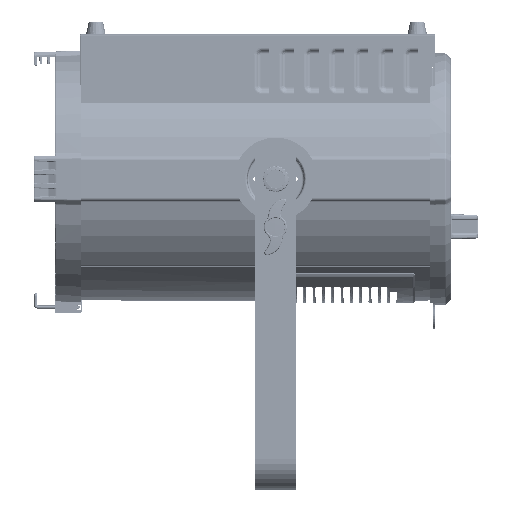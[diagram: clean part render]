
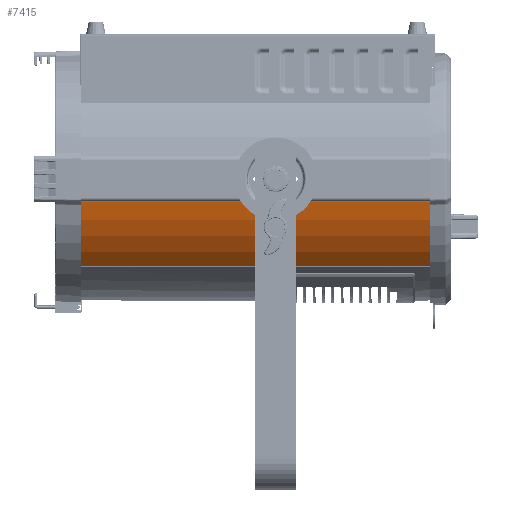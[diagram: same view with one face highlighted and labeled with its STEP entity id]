
A CAD part, left-side view. The second image highlights one B-rep face of the part: STEP entity #7415.
In plain terms, the highlighted cylindrical face has radius 117.5 mm (diameter 235 mm), a partial arc.
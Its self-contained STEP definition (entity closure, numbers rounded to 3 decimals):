
#3907=CARTESIAN_POINT('',(0.,172.,0.));
#3908=DIRECTION('',(0.,-1.,0.));
#3909=DIRECTION('',(0.982,0.,0.191));
#3910=AXIS2_PLACEMENT_3D('',#3907,#3908,#3909);
#4965=DIRECTION('',(0.,-1.,0.));
#4966=VECTOR('',#4965,344.);
#4967=CARTESIAN_POINT('',(82.853,172.,83.317));
#4968=LINE('',#4967,#4966);
#4972=DIRECTION('',(0.,-1.,0.));
#4973=VECTOR('',#4972,344.);
#4974=CARTESIAN_POINT('',(115.342,172.,22.414));
#4975=LINE('',#4974,#4973);
#4979=CARTESIAN_POINT('',(0.,-172.,0.));
#4980=DIRECTION('',(0.,-1.,0.));
#4981=DIRECTION('',(0.982,0.,0.191));
#4982=AXIS2_PLACEMENT_3D('',#4979,#4980,#4981);
#5851=CARTESIAN_POINT('',(115.342,172.,22.414));
#5852=CARTESIAN_POINT('',(115.342,-172.,22.414));
#5853=VERTEX_POINT('',#5851);
#5854=VERTEX_POINT('',#5852);
#5887=CARTESIAN_POINT('',(82.853,-172.,83.317));
#5889=VERTEX_POINT('',#5887);
#5893=CARTESIAN_POINT('',(82.853,172.,83.317));
#5894=VERTEX_POINT('',#5893);
#7402=CARTESIAN_POINT('',(0.,-172.,0.));
#7403=DIRECTION('',(0.,1.,0.));
#7404=DIRECTION('',(1.,0.,0.));
#7405=AXIS2_PLACEMENT_3D('',#7402,#7403,#7404);
#7406=CYLINDRICAL_SURFACE('',#7405,117.5);
#7408=ORIENTED_EDGE('',*,*,#7407,.F.);
#7409=ORIENTED_EDGE('',*,*,#6589,.F.);
#7411=ORIENTED_EDGE('',*,*,#7410,.T.);
#7412=ORIENTED_EDGE('',*,*,#6256,.T.);
#7413=EDGE_LOOP('',(#7408,#7409,#7411,#7412));
#7414=FACE_OUTER_BOUND('',#7413,.F.);
#3911=CIRCLE('',#3910,117.5);
#4983=CIRCLE('',#4982,117.5);
#6256=EDGE_CURVE('',#5854,#5889,#4983,.T.);
#6589=EDGE_CURVE('',#5853,#5894,#3911,.T.);
#7407=EDGE_CURVE('',#5894,#5889,#4968,.T.);
#7410=EDGE_CURVE('',#5853,#5854,#4975,.T.);
#7415=ADVANCED_FACE('',(#7414),#7406,.T.);
